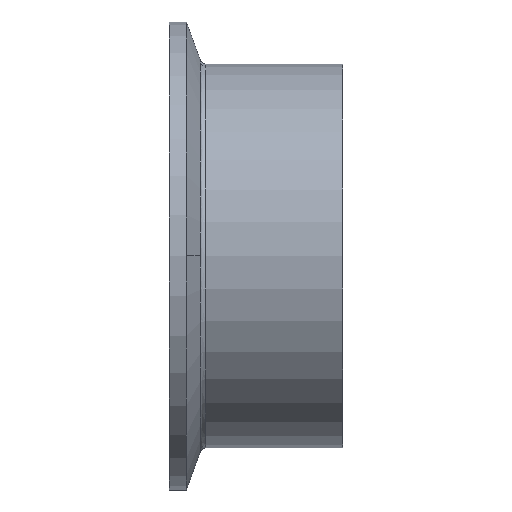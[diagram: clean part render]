
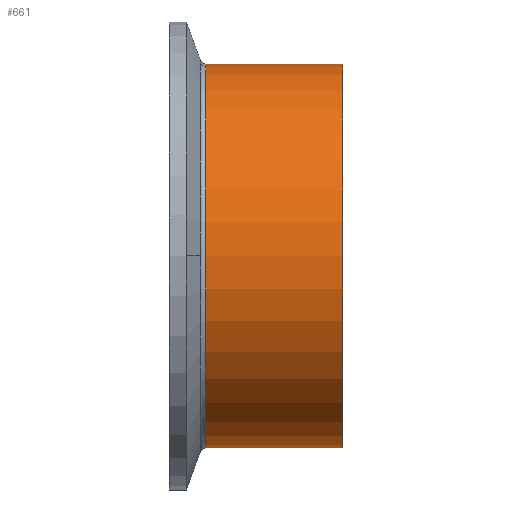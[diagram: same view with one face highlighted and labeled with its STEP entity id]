
A CAD part, top view. The second image highlights one B-rep face of the part: STEP entity #661.
In plain terms, the highlighted cylindrical face has radius 31.75 mm (diameter 63.5 mm), a partial arc.
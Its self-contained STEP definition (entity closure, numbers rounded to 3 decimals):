
#3 = DIRECTION ( 'NONE',  ( 1., 0., 0. ) ) ;
#10 = ORIENTED_EDGE ( 'NONE', *, *, #172, .T. ) ;
#58 = EDGE_LOOP ( 'NONE', ( #10, #236, #197, #237 ) ) ;
#67 = AXIS2_PLACEMENT_3D ( 'NONE', #1065, #3, #462 ) ;
#68 = EDGE_CURVE ( 'NONE', #925, #1350, #379, .T. ) ;
#172 = EDGE_CURVE ( 'NONE', #925, #413, #352, .T. ) ;
#184 = CARTESIAN_POINT ( 'NONE',  ( 45.786, 0., 0. ) ) ;
#186 = VECTOR ( 'NONE', #1163, 1000. ) ;
#197 = ORIENTED_EDGE ( 'NONE', *, *, #1366, .F. ) ;
#236 = ORIENTED_EDGE ( 'NONE', *, *, #1389, .T. ) ;
#237 = ORIENTED_EDGE ( 'NONE', *, *, #68, .F. ) ;
#299 = DIRECTION ( 'NONE',  ( 1., 0., 0. ) ) ;
#352 = CIRCLE ( 'NONE', #67, 31.75 ) ;
#372 = DIRECTION ( 'NONE',  ( 1., 0., 0. ) ) ;
#379 = LINE ( 'NONE', #1197, #186 ) ;
#413 = VERTEX_POINT ( 'NONE', #1317 ) ;
#462 = DIRECTION ( 'NONE',  ( 0., 1., 0. ) ) ;
#515 = CIRCLE ( 'NONE', #548, 31.75 ) ;
#548 = AXIS2_PLACEMENT_3D ( 'NONE', #1068, #372, #1181 ) ;
#661 = ADVANCED_FACE ( 'NONE', ( #973 ), #918, .T. ) ;
#701 = VECTOR ( 'NONE', #837, 1000. ) ;
#761 = CARTESIAN_POINT ( 'NONE',  ( -22.686, 31.75, 0. ) ) ;
#837 = DIRECTION ( 'NONE',  ( 1., 0., 0. ) ) ;
#851 = LINE ( 'NONE', #1400, #701 ) ;
#918 = CYLINDRICAL_SURFACE ( 'NONE', #1233, 31.75 ) ;
#925 = VERTEX_POINT ( 'NONE', #761 ) ;
#973 = FACE_OUTER_BOUND ( 'NONE', #58, .T. ) ;
#983 = CARTESIAN_POINT ( 'NONE',  ( 0., -31.75, 0. ) ) ;
#989 = DIRECTION ( 'NONE',  ( 0., 1., 0. ) ) ;
#1044 = VERTEX_POINT ( 'NONE', #983 ) ;
#1065 = CARTESIAN_POINT ( 'NONE',  ( -22.686, 0., 0. ) ) ;
#1068 = CARTESIAN_POINT ( 'NONE',  ( 0., 0., 0. ) ) ;
#1163 = DIRECTION ( 'NONE',  ( 1., 0., 0. ) ) ;
#1172 = CARTESIAN_POINT ( 'NONE',  ( 0., 31.75, 0. ) ) ;
#1181 = DIRECTION ( 'NONE',  ( 0., 1., 0. ) ) ;
#1197 = CARTESIAN_POINT ( 'NONE',  ( 45.786, 31.75, 0. ) ) ;
#1233 = AXIS2_PLACEMENT_3D ( 'NONE', #184, #299, #989 ) ;
#1317 = CARTESIAN_POINT ( 'NONE',  ( -22.686, -31.75, 0. ) ) ;
#1350 = VERTEX_POINT ( 'NONE', #1172 ) ;
#1366 = EDGE_CURVE ( 'NONE', #1350, #1044, #515, .T. ) ;
#1389 = EDGE_CURVE ( 'NONE', #413, #1044, #851, .T. ) ;
#1400 = CARTESIAN_POINT ( 'NONE',  ( 45.786, -31.75, 0. ) ) ;
